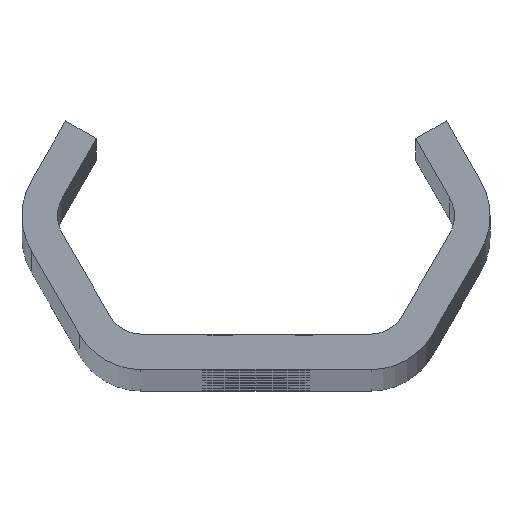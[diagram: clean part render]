
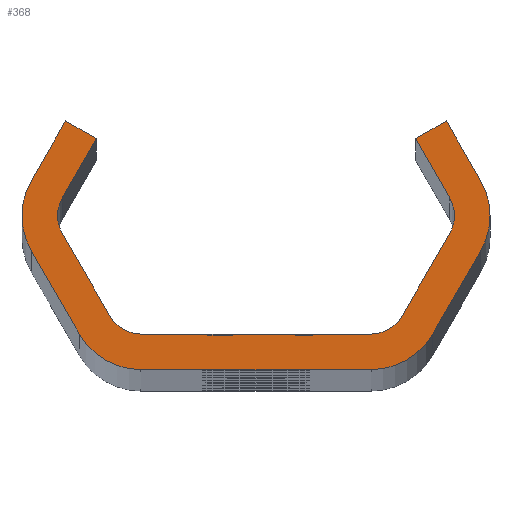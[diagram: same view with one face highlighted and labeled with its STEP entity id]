
A CAD part, top view. The second image highlights one B-rep face of the part: STEP entity #368.
In plain terms, the highlighted planar face has unit normal (0, 0, 1).
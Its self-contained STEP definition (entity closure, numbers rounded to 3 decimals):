
#368=ADVANCED_FACE('NONE',(#990),#991,.F.);
#990=FACE_OUTER_BOUND('',#3037,.T.);
#991=PLANE('',#3038);
#3037=EDGE_LOOP('',(#6219,#6220,#6221,#6222,#6223,#6224,#6225,#6226,#6227,#6228,#6229,#6230,#6231,#6232,#6233,#6234,#6235,#6236,#6237,#6238,#6239,#6240,#6241,#6242,#6243,#6244,#6245,#6246));
#3038=AXIS2_PLACEMENT_3D('',#6247,#6248,#6249);
#6219=ORIENTED_EDGE('',*,*,#8338,.F.);
#6220=ORIENTED_EDGE('',*,*,#8339,.T.);
#6221=ORIENTED_EDGE('',*,*,#8149,.T.);
#6222=ORIENTED_EDGE('',*,*,#8340,.T.);
#6223=ORIENTED_EDGE('',*,*,#8301,.T.);
#6224=ORIENTED_EDGE('',*,*,#8341,.T.);
#6225=ORIENTED_EDGE('',*,*,#7976,.T.);
#6226=ORIENTED_EDGE('',*,*,#8304,.T.);
#6227=ORIENTED_EDGE('',*,*,#8310,.T.);
#6228=ORIENTED_EDGE('',*,*,#8314,.T.);
#6229=ORIENTED_EDGE('',*,*,#8342,.T.);
#6230=ORIENTED_EDGE('',*,*,#8123,.T.);
#6231=ORIENTED_EDGE('',*,*,#8316,.T.);
#6232=ORIENTED_EDGE('',*,*,#8343,.T.);
#6233=ORIENTED_EDGE('',*,*,#8320,.T.);
#6234=ORIENTED_EDGE('',*,*,#8344,.T.);
#6235=ORIENTED_EDGE('',*,*,#8130,.T.);
#6236=ORIENTED_EDGE('',*,*,#8345,.T.);
#6237=ORIENTED_EDGE('',*,*,#7981,.T.);
#6238=ORIENTED_EDGE('',*,*,#8133,.T.);
#6239=ORIENTED_EDGE('',*,*,#8139,.T.);
#6240=ORIENTED_EDGE('',*,*,#8142,.T.);
#6241=ORIENTED_EDGE('',*,*,#8120,.T.);
#6242=ORIENTED_EDGE('',*,*,#8346,.T.);
#6243=ORIENTED_EDGE('',*,*,#8144,.T.);
#6244=ORIENTED_EDGE('',*,*,#8347,.T.);
#6245=ORIENTED_EDGE('',*,*,#8152,.T.);
#6246=ORIENTED_EDGE('',*,*,#8348,.T.);
#6247=CARTESIAN_POINT('',(0.0,0.0,1040.0));
#6248=DIRECTION('',(0.0,0.0,-1.0));
#6249=DIRECTION('',(0.0,-1.0,0.0));
#7976=EDGE_CURVE('NONE',#8901,#8905,#8907,.T.);
#7981=EDGE_CURVE('NONE',#8910,#8914,#8916,.T.);
#8120=EDGE_CURVE('NONE',#9166,#9164,#9167,.T.);
#8123=EDGE_CURVE('NONE',#9170,#9171,#9172,.T.);
#8130=EDGE_CURVE('NONE',#9184,#9182,#9185,.T.);
#8133=EDGE_CURVE('NONE',#8914,#9188,#9189,.T.);
#8139=EDGE_CURVE('NONE',#9188,#9196,#9198,.T.);
#8142=EDGE_CURVE('NONE',#9196,#9166,#9201,.T.);
#8144=EDGE_CURVE('NONE',#9203,#9204,#9205,.T.);
#8149=EDGE_CURVE('NONE',#9212,#9213,#9214,.T.);
#8152=EDGE_CURVE('NONE',#9219,#9217,#9220,.T.);
#8301=EDGE_CURVE('NONE',#9496,#9494,#9497,.T.);
#8304=EDGE_CURVE('NONE',#8905,#9500,#9501,.T.);
#8310=EDGE_CURVE('NONE',#9500,#9508,#9510,.T.);
#8314=EDGE_CURVE('NONE',#9508,#9514,#9516,.T.);
#8316=EDGE_CURVE('NONE',#9171,#9518,#9519,.T.);
#8320=EDGE_CURVE('NONE',#9524,#9525,#9526,.T.);
#8338=EDGE_CURVE('NONE',#9546,#9547,#9548,.T.);
#8339=EDGE_CURVE('NONE',#9546,#9212,#9549,.T.);
#8340=EDGE_CURVE('NONE',#9213,#9496,#9550,.T.);
#8341=EDGE_CURVE('NONE',#9494,#8901,#9551,.T.);
#8342=EDGE_CURVE('NONE',#9514,#9170,#9552,.T.);
#8343=EDGE_CURVE('NONE',#9518,#9524,#9553,.T.);
#8344=EDGE_CURVE('NONE',#9525,#9184,#9554,.T.);
#8345=EDGE_CURVE('NONE',#9182,#8910,#9555,.T.);
#8346=EDGE_CURVE('NONE',#9164,#9203,#9556,.T.);
#8347=EDGE_CURVE('NONE',#9204,#9219,#9557,.T.);
#8348=EDGE_CURVE('NONE',#9217,#9547,#9558,.T.);
#8901=VERTEX_POINT('',#10274);
#8905=VERTEX_POINT('NONE',#10279);
#8907=CIRCLE('',#10282,3.0);
#8910=VERTEX_POINT('',#10285);
#8914=VERTEX_POINT('NONE',#10290);
#8916=CIRCLE('',#10293,6.0);
#9164=VERTEX_POINT('NONE',#11791);
#9166=VERTEX_POINT('NONE',#11794);
#9167=CIRCLE('',#11795,3.0);
#9170=VERTEX_POINT('NONE',#11799);
#9171=VERTEX_POINT('NONE',#11800);
#9172=CIRCLE('',#11801,6.0);
#9182=VERTEX_POINT('NONE',#11814);
#9184=VERTEX_POINT('NONE',#11817);
#9185=LINE('',#11818,#11819);
#9188=VERTEX_POINT('NONE',#11823);
#9189=LINE('',#11824,#11825);
#9196=VERTEX_POINT('NONE',#11835);
#9198=LINE('',#11838,#11839);
#9201=LINE('',#11843,#11844);
#9203=VERTEX_POINT('NONE',#11846);
#9204=VERTEX_POINT('NONE',#11847);
#9205=LINE('',#11848,#11849);
#9212=VERTEX_POINT('NONE',#11859);
#9213=VERTEX_POINT('NONE',#11860);
#9214=LINE('',#11861,#11862);
#9217=VERTEX_POINT('NONE',#11866);
#9219=VERTEX_POINT('NONE',#11869);
#9220=LINE('',#11870,#11871);
#9494=VERTEX_POINT('NONE',#12897);
#9496=VERTEX_POINT('NONE',#12900);
#9497=LINE('',#12901,#12902);
#9500=VERTEX_POINT('NONE',#12906);
#9501=LINE('',#12907,#12908);
#9508=VERTEX_POINT('NONE',#12918);
#9510=LINE('',#12921,#12922);
#9514=VERTEX_POINT('NONE',#12927);
#9516=LINE('',#12930,#12931);
#9518=VERTEX_POINT('NONE',#12933);
#9519=LINE('',#12934,#12935);
#9524=VERTEX_POINT('NONE',#12942);
#9525=VERTEX_POINT('NONE',#12943);
#9526=LINE('',#12944,#12945);
#9546=VERTEX_POINT('NONE',#12968);
#9547=VERTEX_POINT('NONE',#12969);
#9548=LINE('',#12970,#12971);
#9549=LINE('',#12972,#12973);
#9550=CIRCLE('',#12974,3.0);
#9551=CIRCLE('',#12975,3.0);
#9552=CIRCLE('',#12976,6.0);
#9553=CIRCLE('',#12977,6.0);
#9554=CIRCLE('',#12978,6.0);
#9555=CIRCLE('',#12979,6.0);
#9556=CIRCLE('',#12980,3.0);
#9557=CIRCLE('',#12981,3.0);
#9558=LINE('',#12982,#12983);
#10274=CARTESIAN_POINT('',(-16.764,0.,1040.0));
#10279=CARTESIAN_POINT('',(-16.362,1.5,1040.0));
#10282=AXIS2_PLACEMENT_3D('',#15367,#15368,#15369);
#10285=CARTESIAN_POINT('',(19.764,0.,1040.0));
#10290=CARTESIAN_POINT('',(18.96,3.,1040.0));
#10293=AXIS2_PLACEMENT_3D('',#15375,#15376,#15377);
#11791=CARTESIAN_POINT('',(16.764,0.,1040.0));
#11794=CARTESIAN_POINT('',(16.362,1.5,1040.0));
#11795=AXIS2_PLACEMENT_3D('',#15514,#15515,#15516);
#11799=CARTESIAN_POINT('',(-19.764,0.,1040.0));
#11800=CARTESIAN_POINT('',(-18.96,-3.,1040.0));
#11801=AXIS2_PLACEMENT_3D('',#15518,#15519,#15520);
#11814=CARTESIAN_POINT('',(18.96,-3.,1040.0));
#11817=CARTESIAN_POINT('',(14.919,-10.,1040.0));
#11818=CARTESIAN_POINT('',(20.692,0.,1040.0));
#11819=VECTOR('',#15528,1000.0);
#11823=CARTESIAN_POINT('',(16.074,8.,1040.0));
#11824=CARTESIAN_POINT('',(16.074,8.,1040.0));
#11825=VECTOR('',#15530,1000.0);
#11835=CARTESIAN_POINT('',(13.475,6.5,1040.0));
#11838=CARTESIAN_POINT('',(13.475,6.5,1040.0));
#11839=VECTOR('',#15535,1000.0);
#11843=CARTESIAN_POINT('',(17.228,0.,1040.0));
#11844=VECTOR('',#15537,1000.0);
#11846=CARTESIAN_POINT('',(16.362,-1.5,1040.0));
#11847=CARTESIAN_POINT('',(12.321,-8.5,1040.0));
#11848=CARTESIAN_POINT('',(11.455,-10.0,1040.0));
#11849=VECTOR('',#15538,1000.0);
#11859=CARTESIAN_POINT('',(-4.063,-10.0,1040.0));
#11860=CARTESIAN_POINT('',(-9.723,-10.0,1040.0));
#11861=CARTESIAN_POINT('',(-11.455,-10.0,1040.0));
#11862=VECTOR('',#15542,1000.0);
#11866=CARTESIAN_POINT('',(-3.458,-10.0,1040.0));
#11869=CARTESIAN_POINT('',(9.723,-10.0,1040.0));
#11870=CARTESIAN_POINT('',(-11.455,-10.0,1040.0));
#11871=VECTOR('',#15545,1000.0);
#12897=CARTESIAN_POINT('',(-16.362,-1.5,1040.0));
#12900=CARTESIAN_POINT('',(-12.321,-8.5,1040.0));
#12901=CARTESIAN_POINT('',(-17.228,0.,1040.0));
#12902=VECTOR('',#15704,1000.0);
#12906=CARTESIAN_POINT('',(-13.475,6.5,1040.0));
#12907=CARTESIAN_POINT('',(-13.475,6.5,1040.0));
#12908=VECTOR('',#15706,1000.0);
#12918=CARTESIAN_POINT('',(-16.074,8.,1040.0));
#12921=CARTESIAN_POINT('',(-13.475,6.5,1040.0));
#12922=VECTOR('',#15711,1000.0);
#12927=CARTESIAN_POINT('',(-18.96,3.,1040.0));
#12930=CARTESIAN_POINT('',(-16.074,8.,1040.0));
#12931=VECTOR('',#15714,1000.0);
#12933=CARTESIAN_POINT('',(-14.919,-10.,1040.0));
#12934=CARTESIAN_POINT('',(-20.692,0.,1040.0));
#12935=VECTOR('',#15715,1000.0);
#12942=CARTESIAN_POINT('',(-9.723,-13.0,1040.0));
#12943=CARTESIAN_POINT('',(9.723,-13.0,1040.0));
#12944=CARTESIAN_POINT('',(-13.187,-13.0,1040.0));
#12945=VECTOR('',#15718,1000.0);
#12968=CARTESIAN_POINT('',(-4.063,-10.1,1040.0));
#12969=CARTESIAN_POINT('',(-3.458,-10.1,1040.0));
#12970=CARTESIAN_POINT('',(0.0,-10.1,1040.0));
#12971=VECTOR('',#15761,1000.0);
#12972=CARTESIAN_POINT('',(-4.063,0.,1040.0));
#12973=VECTOR('',#15762,1000.0);
#12974=AXIS2_PLACEMENT_3D('',#15763,#15764,#15765);
#12975=AXIS2_PLACEMENT_3D('',#15766,#15767,#15768);
#12976=AXIS2_PLACEMENT_3D('',#15769,#15770,#15771);
#12977=AXIS2_PLACEMENT_3D('',#15772,#15773,#15774);
#12978=AXIS2_PLACEMENT_3D('',#15775,#15776,#15777);
#12979=AXIS2_PLACEMENT_3D('',#15778,#15779,#15780);
#12980=AXIS2_PLACEMENT_3D('',#15781,#15782,#15783);
#12981=AXIS2_PLACEMENT_3D('',#15784,#15785,#15786);
#12982=CARTESIAN_POINT('',(-3.458,0.,1040.0));
#12983=VECTOR('',#15787,1000.0);
#15367=CARTESIAN_POINT('',(-13.764,0.,1040.0));
#15368=DIRECTION('',(0.0,0.0,-1.0));
#15369=DIRECTION('',(-1.0,0.0,0.0));
#15375=CARTESIAN_POINT('',(13.764,0.,1040.0));
#15376=DIRECTION('',(0.0,0.0,1.0));
#15377=DIRECTION('',(-1.0,0.0,0.0));
#15514=CARTESIAN_POINT('',(13.764,0.,1040.0));
#15515=DIRECTION('',(0.0,0.0,-1.0));
#15516=DIRECTION('',(-1.0,0.0,0.0));
#15518=CARTESIAN_POINT('',(-13.764,0.,1040.0));
#15519=DIRECTION('',(0.0,0.0,1.0));
#15520=DIRECTION('',(-1.0,0.0,0.0));
#15528=DIRECTION('',(0.5,0.866,-0.0));
#15530=DIRECTION('',(-0.5,0.866,-0.0));
#15535=DIRECTION('',(-0.866,-0.5,-0.0));
#15537=DIRECTION('',(0.5,-0.866,-0.0));
#15538=DIRECTION('',(-0.5,-0.866,-0.0));
#15542=DIRECTION('',(-1.0,0.,-0.0));
#15545=DIRECTION('',(-1.0,0.,-0.0));
#15704=DIRECTION('',(-0.5,0.866,-0.0));
#15706=DIRECTION('',(0.5,0.866,-0.0));
#15711=DIRECTION('',(-0.866,0.5,0.0));
#15714=DIRECTION('',(-0.5,-0.866,0.0));
#15715=DIRECTION('',(0.5,-0.866,0.0));
#15718=DIRECTION('',(1.0,0.0,0.0));
#15761=DIRECTION('',(1.0,0.0,0.0));
#15762=DIRECTION('',(0.,1.0,0.0));
#15763=CARTESIAN_POINT('',(-9.723,-7.0,1040.0));
#15764=DIRECTION('',(0.0,0.0,-1.0));
#15765=DIRECTION('',(-1.0,0.0,0.0));
#15766=CARTESIAN_POINT('',(-13.764,0.,1040.0));
#15767=DIRECTION('',(0.0,0.0,-1.0));
#15768=DIRECTION('',(-1.0,0.0,0.0));
#15769=CARTESIAN_POINT('',(-13.764,0.,1040.0));
#15770=DIRECTION('',(0.0,0.0,1.0));
#15771=DIRECTION('',(-1.0,0.,0.0));
#15772=CARTESIAN_POINT('',(-9.723,-7.0,1040.0));
#15773=DIRECTION('',(0.0,0.0,1.0));
#15774=DIRECTION('',(-1.0,0.0,0.0));
#15775=CARTESIAN_POINT('',(9.723,-7.0,1040.0));
#15776=DIRECTION('',(0.0,0.0,1.0));
#15777=DIRECTION('',(-1.0,0.,0.0));
#15778=CARTESIAN_POINT('',(13.764,0.,1040.0));
#15779=DIRECTION('',(0.0,0.0,1.0));
#15780=DIRECTION('',(-1.0,0.0,0.0));
#15781=CARTESIAN_POINT('',(13.764,0.,1040.0));
#15782=DIRECTION('',(0.0,0.0,-1.0));
#15783=DIRECTION('',(-1.0,0.0,0.0));
#15784=CARTESIAN_POINT('',(9.723,-7.0,1040.0));
#15785=DIRECTION('',(0.0,0.0,-1.0));
#15786=DIRECTION('',(-1.0,0.0,0.0));
#15787=DIRECTION('',(0.,-1.0,0.0));
